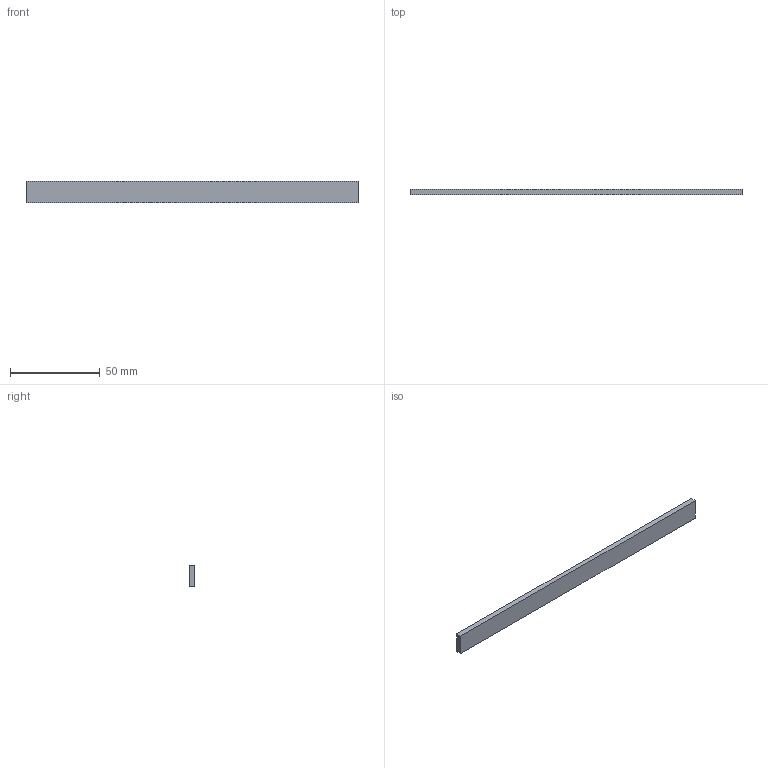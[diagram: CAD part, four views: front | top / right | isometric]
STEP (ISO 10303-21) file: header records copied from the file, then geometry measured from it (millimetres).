
FILE_DESCRIPTION(('Open CASCADE Model'),'2;1');
FILE_NAME('Open CASCADE Shape Model','2026-10-04T02:31:35',('Author'),( 'Open CASCADE'),'Open CASCADE STEP processor 8.0','Open CASCADE 8.0' ,'Unknown');
FILE_SCHEMA(('AUTOMOTIVE_DESIGN { 1 0 10303 214 1 1 1 1 }'));
Length unit declared in the file: millimetre
Products named in the file (1): Open CASCADE STEP translator 8.0 56
Bounding box: 185 x 3 x 12 mm (x, y, z)
Volume: 6660 mm3; surface area: 5622 mm2
Topology: 1 solids, 1 shells, 6 faces, 12 edges, 8 vertices
Faces by surface type: plane 6
Entity records: 322 total; most frequent: CARTESIAN_POINT 51, DIRECTION 50, LINE 36, VECTOR 36, ORIENTED_EDGE 24, PCURVE 24, DEFINITIONAL_REPRESENTATION 24, EDGE_CURVE 12
